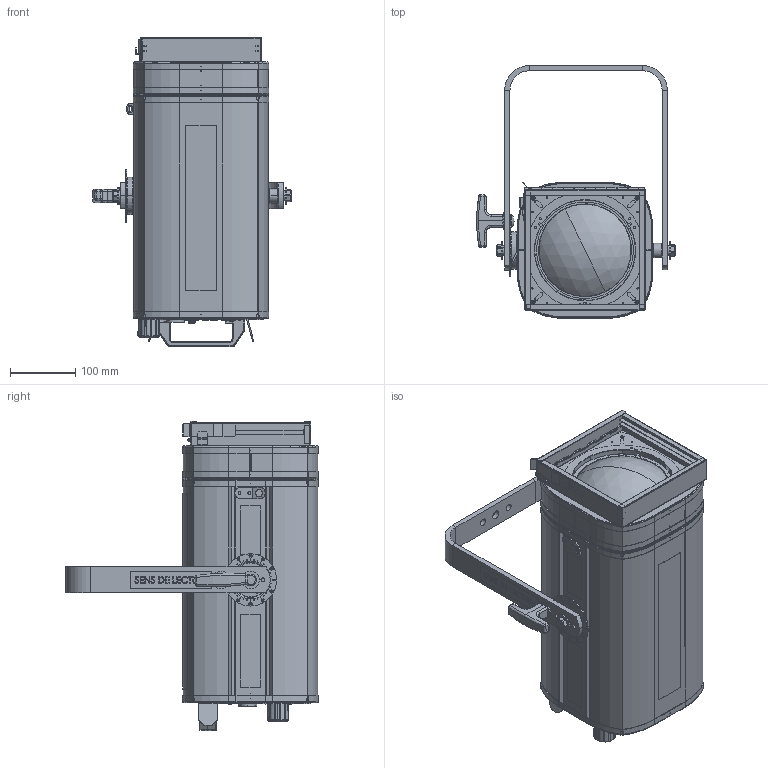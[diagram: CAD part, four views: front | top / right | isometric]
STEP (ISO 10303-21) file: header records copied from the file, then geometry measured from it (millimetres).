
FILE_DESCRIPTION (( 'STEP AP214' ), '1' );
FILE_NAME ('305LPB.STEP', '2021-10-18T13:11:25', ( '' ), ( '' ), 'SwSTEP 2.0', 'SolidWorks 2019', '' );
FILE_SCHEMA (( 'AUTOMOTIVE_DESIGN' ));
Length unit declared in the file: millimetre
Products named in the file (1): 305LPB
Bounding box: 303.7 x 386.8 x 473.6 mm (x, y, z)
Volume: 1300120.3 mm3; surface area: 1380678.5 mm2
Topology: 72 solids, 82 shells, 5663 faces, 14081 edges, 8898 vertices
Faces by surface type: plane 3055, cylinder 1273, cone 475, torus 443, bspline 393, sphere 24
Entity records: 254736 total; most frequent: CARTESIAN_POINT 56532, ORIENTED_EDGE 28054, DIRECTION 27739, EDGE_CURVE 14027, AXIS2_PLACEMENT_3D 9416, LINE 8907, VECTOR 8907, VERTEX_POINT 8894
